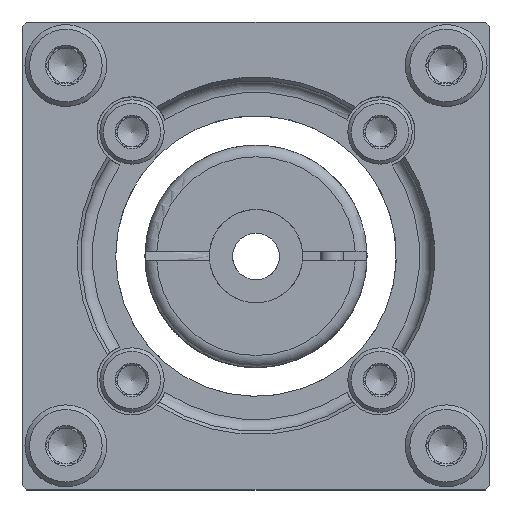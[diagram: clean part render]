
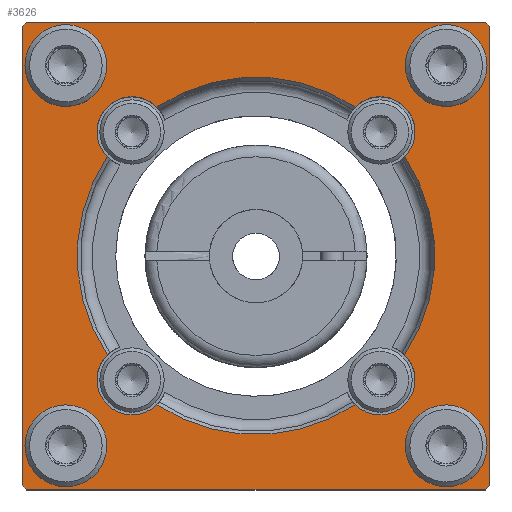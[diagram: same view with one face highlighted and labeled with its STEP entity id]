
A CAD part, top view. The second image highlights one B-rep face of the part: STEP entity #3626.
In plain terms, the highlighted planar face has unit normal (0, 0, 1).
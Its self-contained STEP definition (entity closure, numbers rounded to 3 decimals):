
#211=FACE_BOUND($,#703,.T.);
#212=FACE_BOUND($,#704,.T.);
#213=FACE_BOUND($,#705,.T.);
#214=FACE_BOUND($,#706,.T.);
#215=FACE_BOUND($,#707,.T.);
#216=FACE_BOUND($,#708,.T.);
#317=PLANE($,#3877);
#703=EDGE_LOOP($,(#2598));
#704=EDGE_LOOP($,(#2599));
#705=EDGE_LOOP($,(#2600));
#706=EDGE_LOOP($,(#2601));
#707=EDGE_LOOP($,(#2602,#2603,#2604,#2605,#2606,#2607,#2608,#2609));
#708=EDGE_LOOP($,(#2610,#2611,#2612,#2613,#2614,#2615,#2616,#2617));
#1013=CIRCLE($,#3860,3.);
#1015=CIRCLE($,#3863,3.);
#1017=CIRCLE($,#3866,3.);
#1019=CIRCLE($,#3869,15.289);
#1023=CIRCLE($,#3876,15.289);
#1024=CIRCLE($,#3878,2.);
#1025=CIRCLE($,#3879,2.);
#1026=CIRCLE($,#3880,2.);
#1027=CIRCLE($,#3881,2.);
#1028=CIRCLE($,#3882,28.);
#1029=CIRCLE($,#3883,28.);
#1030=CIRCLE($,#3884,28.);
#1031=CIRCLE($,#3885,28.);
#1032=CIRCLE($,#3886,15.289);
#1033=CIRCLE($,#3887,3.);
#1034=CIRCLE($,#3888,15.289);
#1208=LINE($,#5555,#1430);
#1209=LINE($,#5559,#1431);
#1210=LINE($,#5563,#1432);
#1211=LINE($,#5566,#1433);
#1430=VECTOR($,#4354,39.192);
#1431=VECTOR($,#4357,39.192);
#1432=VECTOR($,#4360,39.192);
#1433=VECTOR($,#4363,39.192);
#1707=VERTEX_POINT($,#5399);
#1713=VERTEX_POINT($,#5436);
#1715=VERTEX_POINT($,#5444);
#1721=VERTEX_POINT($,#5481);
#1723=VERTEX_POINT($,#5489);
#1729=VERTEX_POINT($,#5526);
#1730=VERTEX_POINT($,#5543);
#1731=VERTEX_POINT($,#5545);
#1732=VERTEX_POINT($,#5547);
#1733=VERTEX_POINT($,#5549);
#1734=VERTEX_POINT($,#5551);
#1735=VERTEX_POINT($,#5552);
#1736=VERTEX_POINT($,#5554);
#1737=VERTEX_POINT($,#5556);
#1738=VERTEX_POINT($,#5558);
#1739=VERTEX_POINT($,#5560);
#1740=VERTEX_POINT($,#5562);
#1741=VERTEX_POINT($,#5564);
#1742=VERTEX_POINT($,#5567);
#1743=VERTEX_POINT($,#5569);
#2063=EDGE_CURVE($,#1707,#1713,#1013,.T.);
#2071=EDGE_CURVE($,#1715,#1721,#1015,.T.);
#2079=EDGE_CURVE($,#1723,#1729,#1017,.T.);
#2081=EDGE_CURVE($,#1713,#1715,#1019,.T.);
#2085=EDGE_CURVE($,#1721,#1723,#1023,.T.);
#2086=EDGE_CURVE($,#1730,#1730,#1024,.T.);
#2087=EDGE_CURVE($,#1731,#1731,#1025,.T.);
#2088=EDGE_CURVE($,#1732,#1732,#1026,.T.);
#2089=EDGE_CURVE($,#1733,#1733,#1027,.T.);
#2090=EDGE_CURVE($,#1734,#1735,#1028,.T.);
#2091=EDGE_CURVE($,#1736,#1734,#1208,.T.);
#2092=EDGE_CURVE($,#1737,#1736,#1029,.T.);
#2093=EDGE_CURVE($,#1738,#1737,#1209,.T.);
#2094=EDGE_CURVE($,#1739,#1738,#1030,.T.);
#2095=EDGE_CURVE($,#1740,#1739,#1210,.T.);
#2096=EDGE_CURVE($,#1741,#1740,#1031,.T.);
#2097=EDGE_CURVE($,#1735,#1741,#1211,.T.);
#2098=EDGE_CURVE($,#1729,#1742,#1032,.T.);
#2099=EDGE_CURVE($,#1742,#1743,#1033,.T.);
#2100=EDGE_CURVE($,#1743,#1707,#1034,.T.);
#2598=ORIENTED_EDGE($,*,*,#2086,.T.);
#2599=ORIENTED_EDGE($,*,*,#2087,.T.);
#2600=ORIENTED_EDGE($,*,*,#2088,.T.);
#2601=ORIENTED_EDGE($,*,*,#2089,.T.);
#2602=ORIENTED_EDGE($,*,*,#2090,.F.);
#2603=ORIENTED_EDGE($,*,*,#2091,.F.);
#2604=ORIENTED_EDGE($,*,*,#2092,.F.);
#2605=ORIENTED_EDGE($,*,*,#2093,.F.);
#2606=ORIENTED_EDGE($,*,*,#2094,.F.);
#2607=ORIENTED_EDGE($,*,*,#2095,.F.);
#2608=ORIENTED_EDGE($,*,*,#2096,.F.);
#2609=ORIENTED_EDGE($,*,*,#2097,.F.);
#2610=ORIENTED_EDGE($,*,*,#2063,.T.);
#2611=ORIENTED_EDGE($,*,*,#2081,.T.);
#2612=ORIENTED_EDGE($,*,*,#2071,.T.);
#2613=ORIENTED_EDGE($,*,*,#2085,.T.);
#2614=ORIENTED_EDGE($,*,*,#2079,.T.);
#2615=ORIENTED_EDGE($,*,*,#2098,.T.);
#2616=ORIENTED_EDGE($,*,*,#2099,.T.);
#2617=ORIENTED_EDGE($,*,*,#2100,.T.);
#3626=ADVANCED_FACE($,(#211,#212,#213,#214,#215,#216),#317,.T.);
#3860=AXIS2_PLACEMENT_3D($,#5441,#4304,#4305);
#3863=AXIS2_PLACEMENT_3D($,#5486,#4312,#4313);
#3866=AXIS2_PLACEMENT_3D($,#5531,#4320,#4321);
#3869=AXIS2_PLACEMENT_3D($,#5534,#4326,#4327);
#3876=AXIS2_PLACEMENT_3D($,#5541,#4340,#4341);
#3877=AXIS2_PLACEMENT_3D($,#5542,#4342,#4343);
#3878=AXIS2_PLACEMENT_3D($,#5544,#4344,#4345);
#3879=AXIS2_PLACEMENT_3D($,#5546,#4346,#4347);
#3880=AXIS2_PLACEMENT_3D($,#5548,#4348,#4349);
#3881=AXIS2_PLACEMENT_3D($,#5550,#4350,#4351);
#3882=AXIS2_PLACEMENT_3D($,#5553,#4352,#4353);
#3883=AXIS2_PLACEMENT_3D($,#5557,#4355,#4356);
#3884=AXIS2_PLACEMENT_3D($,#5561,#4358,#4359);
#3885=AXIS2_PLACEMENT_3D($,#5565,#4361,#4362);
#3886=AXIS2_PLACEMENT_3D($,#5568,#4364,#4365);
#3887=AXIS2_PLACEMENT_3D($,#5570,#4366,#4367);
#3888=AXIS2_PLACEMENT_3D($,#5571,#4368,#4369);
#4304=DIRECTION('center_axis',(0.,0.,-1.));
#4305=DIRECTION('ref_axis',(0.,1.,0.));
#4312=DIRECTION('center_axis',(0.,0.,-1.));
#4313=DIRECTION('ref_axis',(1.,0.,0.));
#4320=DIRECTION('center_axis',(0.,0.,-1.));
#4321=DIRECTION('ref_axis',(0.,-1.,0.));
#4326=DIRECTION('center_axis',(0.,0.,-1.));
#4327=DIRECTION('ref_axis',(0.,1.,0.));
#4340=DIRECTION('center_axis',(0.,0.,-1.));
#4341=DIRECTION('ref_axis',(0.,1.,0.));
#4342=DIRECTION('center_axis',(0.,0.,1.));
#4343=DIRECTION('ref_axis',(1.,0.,0.));
#4344=DIRECTION('center_axis',(0.,0.,-1.));
#4345=DIRECTION('ref_axis',(0.707,-0.707,0.));
#4346=DIRECTION('center_axis',(0.,0.,-1.));
#4347=DIRECTION('ref_axis',(-0.707,-0.707,0.));
#4348=DIRECTION('center_axis',(0.,0.,-1.));
#4349=DIRECTION('ref_axis',(-0.707,0.707,0.));
#4350=DIRECTION('center_axis',(0.,0.,-1.));
#4351=DIRECTION('ref_axis',(0.707,0.707,0.));
#4352=DIRECTION('center_axis',(0.,0.,-1.));
#4353=DIRECTION('ref_axis',(-0.7,0.714,0.));
#4354=DIRECTION($,(0.,1.,0.));
#4355=DIRECTION('center_axis',(0.,0.,-1.));
#4356=DIRECTION('ref_axis',(-0.714,-0.7,0.));
#4357=DIRECTION($,(-1.,0.,0.));
#4358=DIRECTION('center_axis',(0.,0.,-1.));
#4359=DIRECTION('ref_axis',(0.7,-0.714,0.));
#4360=DIRECTION($,(0.,-1.,0.));
#4361=DIRECTION('center_axis',(0.,0.,-1.));
#4362=DIRECTION('ref_axis',(0.714,0.7,0.));
#4363=DIRECTION($,(1.,0.,0.));
#4364=DIRECTION('center_axis',(0.,0.,-1.));
#4365=DIRECTION('ref_axis',(0.,1.,0.));
#4366=DIRECTION('center_axis',(0.,0.,-1.));
#4367=DIRECTION('ref_axis',(-1.,0.,0.));
#4368=DIRECTION('center_axis',(0.,0.,-1.));
#4369=DIRECTION('ref_axis',(0.,1.,0.));
#5399=CARTESIAN_POINT('',(8.479,12.722,16.5));
#5436=CARTESIAN_POINT('',(12.722,8.479,16.5));
#5441=CARTESIAN_POINT('Origin',(10.607,10.607,16.5));
#5444=CARTESIAN_POINT('',(12.722,-8.479,16.5));
#5481=CARTESIAN_POINT('',(8.479,-12.722,16.5));
#5486=CARTESIAN_POINT('Origin',(10.607,-10.607,16.5));
#5489=CARTESIAN_POINT('',(-8.479,-12.722,16.5));
#5526=CARTESIAN_POINT('',(-12.722,-8.479,16.5));
#5531=CARTESIAN_POINT('Origin',(-10.607,-10.607,16.5));
#5534=CARTESIAN_POINT('Origin',(0.,0.,16.5));
#5541=CARTESIAN_POINT('Origin',(0.,0.,16.5));
#5542=CARTESIAN_POINT('Origin',(0.,0.,
16.5));
#5543=CARTESIAN_POINT('',(17.678,-17.678,16.5));
#5544=CARTESIAN_POINT('Origin',(16.263,-16.263,16.5));
#5545=CARTESIAN_POINT('',(-17.678,-17.678,16.5));
#5546=CARTESIAN_POINT('Origin',(-16.263,-16.263,16.5));
#5547=CARTESIAN_POINT('',(-17.678,17.678,16.5));
#5548=CARTESIAN_POINT('Origin',(-16.263,16.263,16.5));
#5549=CARTESIAN_POINT('',(17.678,17.678,16.5));
#5550=CARTESIAN_POINT('Origin',(16.263,16.263,16.5));
#5551=CARTESIAN_POINT('',(-20.,19.596,16.5));
#5552=CARTESIAN_POINT('',(-19.596,20.,16.5));
#5553=CARTESIAN_POINT('Origin',(0.,0.,
16.5));
#5554=CARTESIAN_POINT('',(-20.,-19.596,16.5));
#5555=CARTESIAN_POINT($,(-20.,19.596,16.5));
#5556=CARTESIAN_POINT('',(-19.596,-20.,16.5));
#5557=CARTESIAN_POINT('Origin',(0.,0.,
16.5));
#5558=CARTESIAN_POINT('',(19.596,-20.,16.5));
#5559=CARTESIAN_POINT($,(-19.596,-20.,16.5));
#5560=CARTESIAN_POINT('',(20.,-19.596,16.5));
#5561=CARTESIAN_POINT('Origin',(0.,0.,
16.5));
#5562=CARTESIAN_POINT('',(20.,19.596,16.5));
#5563=CARTESIAN_POINT($,(20.,-19.596,16.5));
#5564=CARTESIAN_POINT('',(19.596,20.,16.5));
#5565=CARTESIAN_POINT('Origin',(0.,0.,
16.5));
#5566=CARTESIAN_POINT($,(19.596,20.,16.5));
#5567=CARTESIAN_POINT('',(-12.722,8.479,16.5));
#5568=CARTESIAN_POINT('Origin',(0.,0.,16.5));
#5569=CARTESIAN_POINT('',(-8.479,12.722,16.5));
#5570=CARTESIAN_POINT('Origin',(-10.607,10.607,16.5));
#5571=CARTESIAN_POINT('Origin',(0.,0.,16.5));
